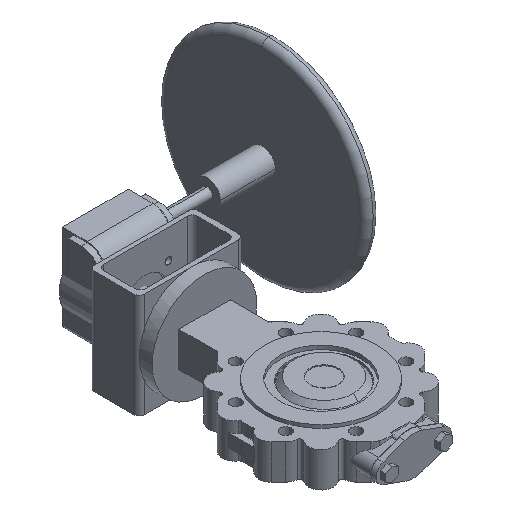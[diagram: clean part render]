
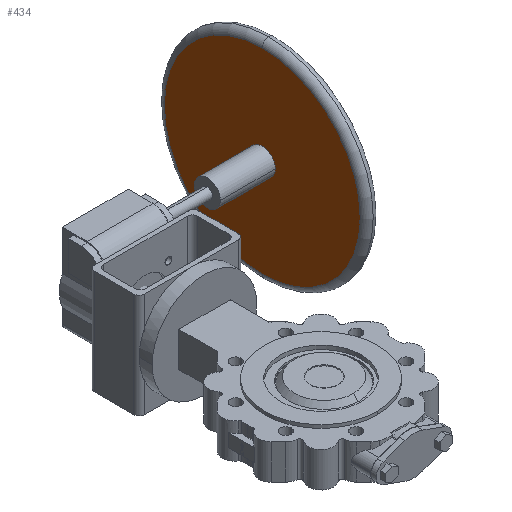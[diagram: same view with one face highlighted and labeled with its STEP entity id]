
A CAD part, isometric view. The second image highlights one B-rep face of the part: STEP entity #434.
In plain terms, the highlighted planar face has unit normal (-1, 0, 0).
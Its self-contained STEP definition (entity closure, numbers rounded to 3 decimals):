
#434 = ADVANCED_FACE( '', ( #1125, #1126 ), #1127, .T. );
#1125 = FACE_OUTER_BOUND( '', #1837, .T. );
#1126 = FACE_BOUND( '', #1838, .T. );
#1127 = PLANE( '', #1839 );
#1837 = EDGE_LOOP( '', ( #4500, #4501, #4502 ) );
#1838 = EDGE_LOOP( '', ( #4503, #4504 ) );
#1839 = AXIS2_PLACEMENT_3D( '', #4505, #4506, #4507 );
#4500 = ORIENTED_EDGE( '', *, *, #5430, .F. );
#4501 = ORIENTED_EDGE( '', *, *, #5429, .F. );
#4502 = ORIENTED_EDGE( '', *, *, #5426, .F. );
#4503 = ORIENTED_EDGE( '', *, *, #5442, .T. );
#4504 = ORIENTED_EDGE( '', *, *, #5529, .T. );
#4505 = CARTESIAN_POINT( '', ( 272., 490.75, 71. ) );
#4506 = DIRECTION( '', ( -1., 0., 0. ) );
#4507 = DIRECTION( '', ( 0., -1., 0. ) );
#5426 = EDGE_CURVE( '', #6831, #6833, #6834, .T. );
#5429 = EDGE_CURVE( '', #6833, #6837, #6838, .T. );
#5430 = EDGE_CURVE( '', #6837, #6831, #6839, .T. );
#5442 = EDGE_CURVE( '', #6856, #6860, #6862, .T. );
#5529 = EDGE_CURVE( '', #6860, #6856, #7006, .T. );
#6831 = VERTEX_POINT( '', #9680 );
#6833 = VERTEX_POINT( '', #9682 );
#6834 = CIRCLE( '', #9683, 187.5 );
#6837 = VERTEX_POINT( '', #9686 );
#6838 = CIRCLE( '', #9687, 187.5 );
#6839 = CIRCLE( '', #9688, 187.5 );
#6856 = VERTEX_POINT( '', #9707 );
#6860 = VERTEX_POINT( '', #9712 );
#6862 = CIRCLE( '', #9715, 25. );
#7006 = CIRCLE( '', #9931, 25. );
#9680 = CARTESIAN_POINT( '', ( 272., 384.5, 258.5 ) );
#9682 = CARTESIAN_POINT( '', ( 272., 384.5, -116.5 ) );
#9683 = AXIS2_PLACEMENT_3D( '', #11441, #11442, #11443 );
#9686 = CARTESIAN_POINT( '', ( 272., 572., 71. ) );
#9687 = AXIS2_PLACEMENT_3D( '', #11450, #11451, #11452 );
#9688 = AXIS2_PLACEMENT_3D( '', #11453, #11454, #11455 );
#9707 = CARTESIAN_POINT( '', ( 272., 409.5, 71. ) );
#9712 = CARTESIAN_POINT( '', ( 272., 359.5, 71. ) );
#9715 = AXIS2_PLACEMENT_3D( '', #11481, #11482, #11483 );
#9931 = AXIS2_PLACEMENT_3D( '', #11598, #11599, #11600 );
#11441 = CARTESIAN_POINT( '', ( 272., 384.5, 71. ) );
#11442 = DIRECTION( '', ( 1., 0., 0. ) );
#11443 = DIRECTION( '', ( 0., 1., 0. ) );
#11450 = CARTESIAN_POINT( '', ( 272., 384.5, 71. ) );
#11451 = DIRECTION( '', ( 1., 0., 0. ) );
#11452 = DIRECTION( '', ( 0., 1., 0. ) );
#11453 = CARTESIAN_POINT( '', ( 272., 384.5, 71. ) );
#11454 = DIRECTION( '', ( 1., 0., 0. ) );
#11455 = DIRECTION( '', ( 0., 1., 0. ) );
#11481 = CARTESIAN_POINT( '', ( 272., 384.5, 71. ) );
#11482 = DIRECTION( '', ( 1., 0., 0. ) );
#11483 = DIRECTION( '', ( 0., 1., 0. ) );
#11598 = CARTESIAN_POINT( '', ( 272., 384.5, 71. ) );
#11599 = DIRECTION( '', ( 1., 0., 0. ) );
#11600 = DIRECTION( '', ( 0., 1., 0. ) );
